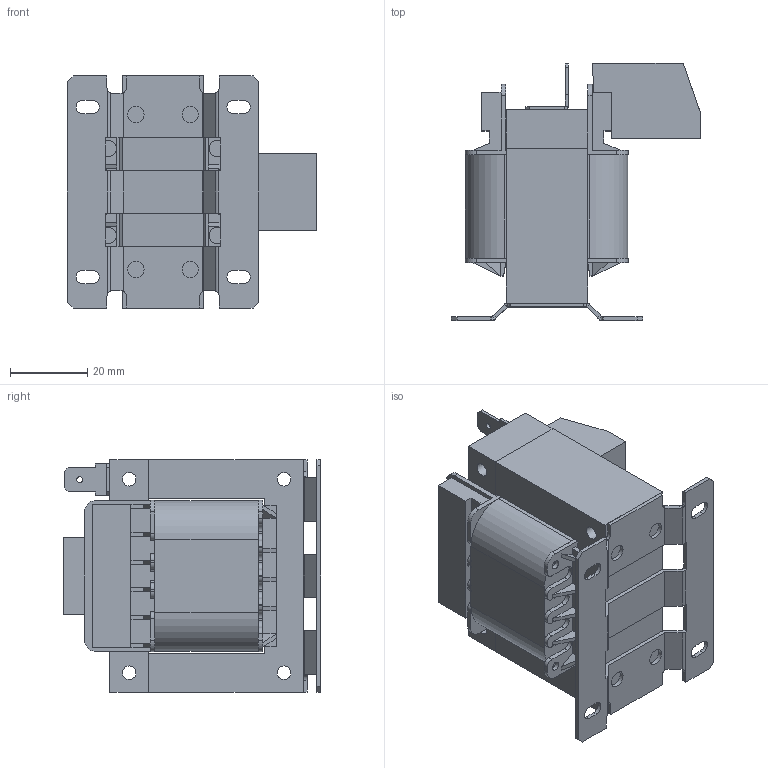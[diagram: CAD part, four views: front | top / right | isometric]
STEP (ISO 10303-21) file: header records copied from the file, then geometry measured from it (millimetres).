
FILE_DESCRIPTION (( 'STEP AP214' ), '1' );
FILE_NAME ('PMO-002.STEP', '2015-04-28T11:30:20', ( 'EDV' ), ( 'Microsoft' ), 'SwSTEP 2.0', 'SolidWorks 2014', '' );
FILE_SCHEMA (( 'AUTOMOTIVE_DESIGN' ));
Length unit declared in the file: millimetre
Products named in the file (7): +2220-0010; TRK 2,5; Fußplatte EI60-21; Wickel EI60_21AK; EI60-21AK; EI60-21; PMO-002
Assembly tree (6 placements, depth 2):
  PMO-002
    EI60-21
    EI60-21AK
    Wickel EI60_21AK
    Fußplatte EI60-21
    TRK 2,5
    +2220-0010
Bounding box: 64.45 x 66.55 x 60 mm (x, y, z)
Volume: 94687.6 mm3; surface area: 49084.8 mm2
Topology: 7 solids, 7 shells, 800 faces, 2253 edges, 1474 vertices
Faces by surface type: plane 615, cylinder 132, bspline 53
Full cylindrical faces by diameter (mm): 1.5 x1, 2.3 x4, 2.316 x1, 3.5 x4, 4.2 x4, 4.805 x1, 5.205 x1
Entity records: 28783 total; most frequent: CARTESIAN_POINT 7759, ORIENTED_EDGE 4466, DIRECTION 3895, EDGE_CURVE 2233, VECTOR 1871, LINE 1871, VERTEX_POINT 1470, AXIS2_PLACEMENT_3D 1012
